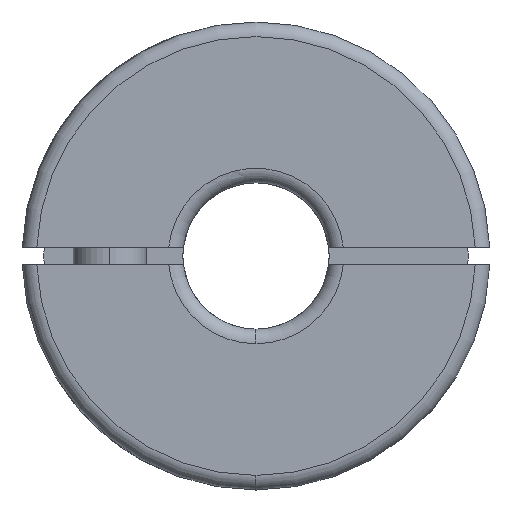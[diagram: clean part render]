
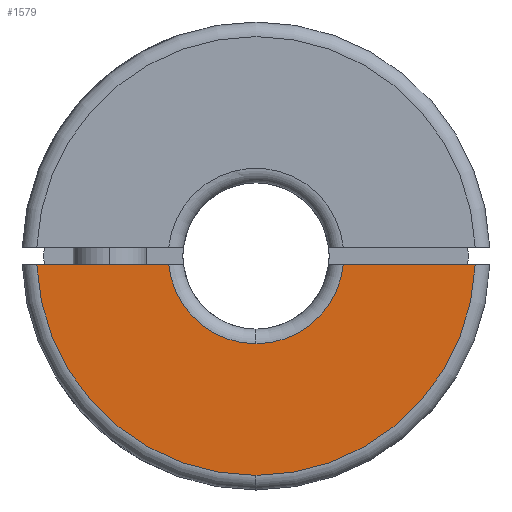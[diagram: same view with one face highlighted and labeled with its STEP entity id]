
A CAD part, left-side view. The second image highlights one B-rep face of the part: STEP entity #1579.
In plain terms, the highlighted planar face has unit normal (-1, 0, 0).
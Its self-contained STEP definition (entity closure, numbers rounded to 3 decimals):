
#235 = EDGE_CURVE ( 'NONE', #236, #802, #2128, .T. ) ;
#236 = VERTEX_POINT ( 'NONE', #1991 ) ;
#575 = VERTEX_POINT ( 'NONE', #2811 ) ;
#580 = VERTEX_POINT ( 'NONE', #2844 ) ;
#697 = EDGE_CURVE ( 'NONE', #580, #575, #3171, .T. ) ;
#802 = VERTEX_POINT ( 'NONE', #3350 ) ;
#1569 = EDGE_CURVE ( 'NONE', #236, #575, #4656, .T. ) ;
#1579 = ADVANCED_FACE ( 'NONE', ( #4645 ), #4637, .F. ) ;
#1580 = EDGE_LOOP ( 'NONE', ( #1603, #1604, #1605, #1608, #1727, #1743 ) ) ;
#1603 = ORIENTED_EDGE ( 'NONE', *, *, #1569, .F. ) ;
#1604 = ORIENTED_EDGE ( 'NONE', *, *, #235, .T. ) ;
#1605 = ORIENTED_EDGE ( 'NONE', *, *, #1606, .T. ) ;
#1606 = EDGE_CURVE ( 'NONE', #802, #1607, #4605, .T. ) ;
#1607 = VERTEX_POINT ( 'NONE', #4594 ) ;
#1608 = ORIENTED_EDGE ( 'NONE', *, *, #1609, .T. ) ;
#1609 = EDGE_CURVE ( 'NONE', #1607, #1726, #4593, .T. ) ;
#1726 = VERTEX_POINT ( 'NONE', #4529 ) ;
#1727 = ORIENTED_EDGE ( 'NONE', *, *, #1728, .T. ) ;
#1728 = EDGE_CURVE ( 'NONE', #1726, #580, #4523, .T. ) ;
#1743 = ORIENTED_EDGE ( 'NONE', *, *, #697, .T. ) ;
#1991 = CARTESIAN_POINT ( 'NONE',  ( -13.25, -2.985, -0.3 ) ) ;
#2124 = DIRECTION ( 'NONE',  ( 0., 0., -1. ) ) ;
#2125 = DIRECTION ( 'NONE',  ( 1., 0., 0. ) ) ;
#2126 = CARTESIAN_POINT ( 'NONE',  ( -13.25, 0., 0. ) ) ;
#2127 = AXIS2_PLACEMENT_3D ( 'NONE', #2126, #2125, #2124 ) ;
#2128 = CIRCLE ( 'NONE', #2127, 3. ) ;
#2811 = CARTESIAN_POINT ( 'NONE',  ( -13.25, -7.494, -0.3 ) ) ;
#2844 = CARTESIAN_POINT ( 'NONE',  ( -13.25, 0., -7.5 ) ) ;
#3167 = DIRECTION ( 'NONE',  ( 0., 0., -1. ) ) ;
#3168 = DIRECTION ( 'NONE',  ( -1., 0., 0. ) ) ;
#3169 = CARTESIAN_POINT ( 'NONE',  ( -13.25, 0., 0. ) ) ;
#3170 = AXIS2_PLACEMENT_3D ( 'NONE', #3169, #3168, #3167 ) ;
#3171 = CIRCLE ( 'NONE', #3170, 7.5 ) ;
#3350 = CARTESIAN_POINT ( 'NONE',  ( -13.25, 0., -3. ) ) ;
#4519 = DIRECTION ( 'NONE',  ( 0., 0., -1. ) ) ;
#4520 = DIRECTION ( 'NONE',  ( -1., 0., 0. ) ) ;
#4521 = CARTESIAN_POINT ( 'NONE',  ( -13.25, 0., 0. ) ) ;
#4522 = AXIS2_PLACEMENT_3D ( 'NONE', #4521, #4520, #4519 ) ;
#4523 = CIRCLE ( 'NONE', #4522, 7.5 ) ;
#4529 = CARTESIAN_POINT ( 'NONE',  ( -13.25, 7.494, -0.3 ) ) ;
#4590 = DIRECTION ( 'NONE',  ( 0., 1., 0. ) ) ;
#4591 = VECTOR ( 'NONE', #4590, 1000. ) ;
#4592 = CARTESIAN_POINT ( 'NONE',  ( -13.25, 8., -0.3 ) ) ;
#4593 = LINE ( 'NONE', #4592, #4591 ) ;
#4594 = CARTESIAN_POINT ( 'NONE',  ( -13.25, 2.985, -0.3 ) ) ;
#4595 = DIRECTION ( 'NONE',  ( 0., 0., -1. ) ) ;
#4596 = DIRECTION ( 'NONE',  ( 1., 0., 0. ) ) ;
#4597 = CARTESIAN_POINT ( 'NONE',  ( -13.25, 0., 0. ) ) ;
#4598 = AXIS2_PLACEMENT_3D ( 'NONE', #4597, #4596, #4595 ) ;
#4605 = CIRCLE ( 'NONE', #4598, 3. ) ;
#4633 = DIRECTION ( 'NONE',  ( 0., 0., -1. ) ) ;
#4634 = DIRECTION ( 'NONE',  ( 1., 0., 0. ) ) ;
#4635 = CARTESIAN_POINT ( 'NONE',  ( -13.25, 8., 0. ) ) ;
#4636 = AXIS2_PLACEMENT_3D ( 'NONE', #4635, #4634, #4633 ) ;
#4637 = PLANE ( 'NONE',  #4636 ) ;
#4645 = FACE_OUTER_BOUND ( 'NONE', #1580, .T. ) ;
#4653 = DIRECTION ( 'NONE',  ( 0., -1., 0. ) ) ;
#4654 = VECTOR ( 'NONE', #4653, 1000. ) ;
#4655 = CARTESIAN_POINT ( 'NONE',  ( -13.25, 8., -0.3 ) ) ;
#4656 = LINE ( 'NONE', #4655, #4654 ) ;
